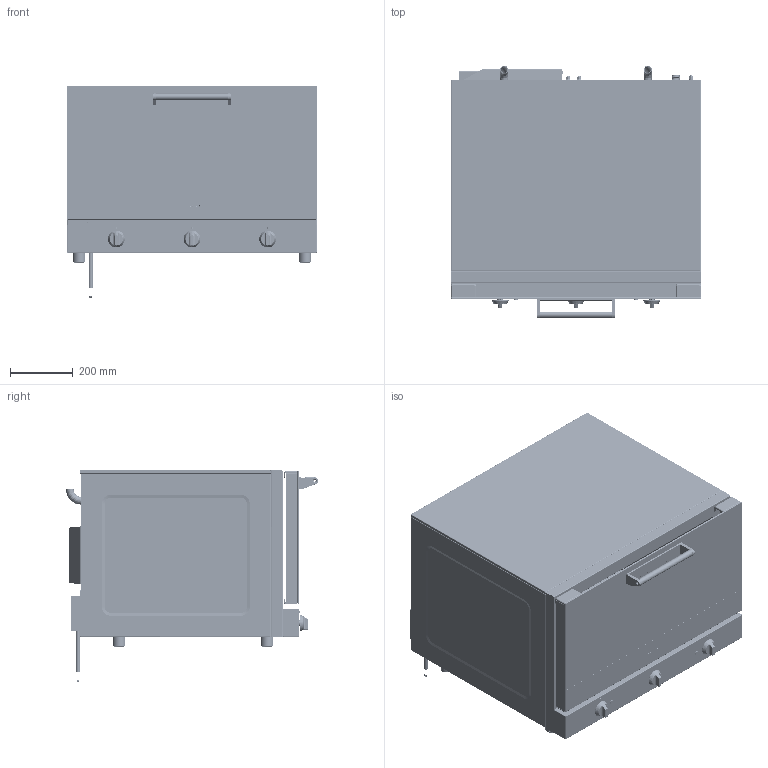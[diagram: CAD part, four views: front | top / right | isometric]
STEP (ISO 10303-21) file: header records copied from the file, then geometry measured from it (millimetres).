
FILE_DESCRIPTION(/* description */ (''),/* implementation_level */ '2;1');
FILE_NAME(/* name */ 'ALFA420H.stp',/* time_stamp */ '2017-06-07T14:17:33+02:00',/* author */ (''),/* organization */ (''),/* preprocessor_version */ 'ST-DEVELOPER v16',/* originating_system */ 'SIEMENS PLM Software NX 11.0',/* authorisation */ '');
FILE_SCHEMA (('AUTOMOTIVE_DESIGN { 1 0 10303 214 3 1 1 1 }'));
Products named in the file (1): FAVE19ACF2A3690d
Bounding box: 798.05 x 807.4 x 674.4 mm (x, y, z)
Volume: 4486184.9 mm3; surface area: 7100906.9 mm2
Topology: 69 solids, 69 shells, 7316 faces, 18399 edges, 11348 vertices
Faces by surface type: plane 2667, cylinder 2571, bspline 1100, torus 409, extrusion 241, cone 214, sphere 114
Full cylindrical faces by diameter (mm): 1.2 x2, 2.5 x2, 3 x2, 3.1 x6, 3.2 x66, 3.432 x1, 3.5 x2, 3.9 x1, 4 x5, 4.3 x26, 4.5 x67, 4.6 x6, 4.917 x1, 5 x2, 5.153 x2, 5.3 x2, 6 x5, 6.5 x3, 6.647 x6, 7 x4, 8 x8, 8.376 x14, 8.5 x2, 8.8 x2, 10 x24, 10.1 x1, 10.2 x2, 10.4 x2, 10.5 x2, 11.205 x1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
Entity records: 272912 total; most frequent: CARTESIAN_POINT 97510, ORIENTED_EDGE 35308, DIRECTION 33270, EDGE_CURVE 17654, AXIS2_PLACEMENT_3D 12068, VERTEX_POINT 11197, VECTOR 9134, LINE 8893
